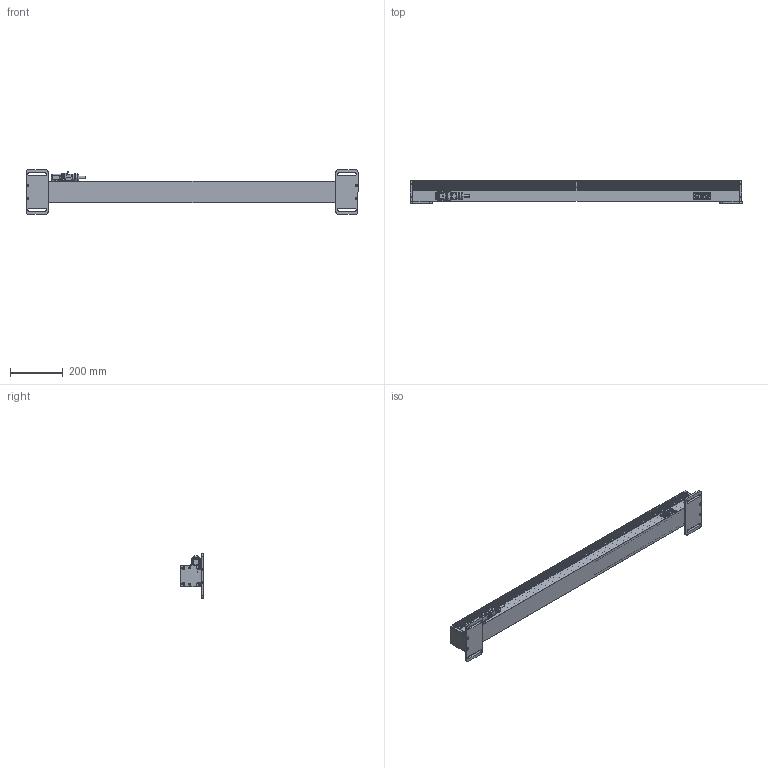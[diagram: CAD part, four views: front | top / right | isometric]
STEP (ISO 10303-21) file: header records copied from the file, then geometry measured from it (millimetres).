
FILE_DESCRIPTION (( 'STEP AP214' ), '1' );
FILE_NAME ('B19743_3_EMR1200.STEP', '2019-02-06T16:41:37', ( '' ), ( '' ), 'SwSTEP 2.0', 'SolidWorks 2014', '' );
FILE_SCHEMA (( 'AUTOMOTIVE_DESIGN' ));
Length unit declared in the file: millimetre
Products named in the file (11): B20340_1_Glass_EMR 1200(for extruded profile); B20386_EMR sup400 End Cap___; B20327_2_EMR-1200_housing___; B19743_3_EMR1200; cable d11; Etiquette ref Delta; EMR 1200 Harting; MD_19200031422_R413466; MD_09200030801_R000001; B20348_Mounting_Bracket_EMR_800_1200; B20371_1_Window support for EMR-1200 steel___
Assembly tree (12 placements, depth 3):
  B19743_3_EMR1200
    B20327_2_EMR-1200_housing___
    B20386_EMR sup400 End Cap___  x2
    B20340_1_Glass_EMR 1200(for extruded profile)
    B20371_1_Window support for EMR-1200 steel___
    B20348_Mounting_Bracket_EMR_800_1200  x2
    EMR 1200 Harting
      MD_09200030801_R000001
      MD_19200031422_R413466
    Etiquette ref Delta
    cable d11
Bounding box: 1261 x 87.5 x 170 mm (x, y, z)
Volume: 2870085 mm3; surface area: 1464828.8 mm2
Topology: 11 solids, 11 shells, 2408 faces, 6232 edges, 3937 vertices
Faces by surface type: plane 1132, cylinder 561, bspline 481, cone 219, torus 15
Entity records: 92121 total; most frequent: CARTESIAN_POINT 25030, ORIENTED_EDGE 11778, DIRECTION 9272, EDGE_CURVE 5889, VERTEX_POINT 3798, LINE 3732, VECTOR 3732, AXIS2_PLACEMENT_3D 2770
